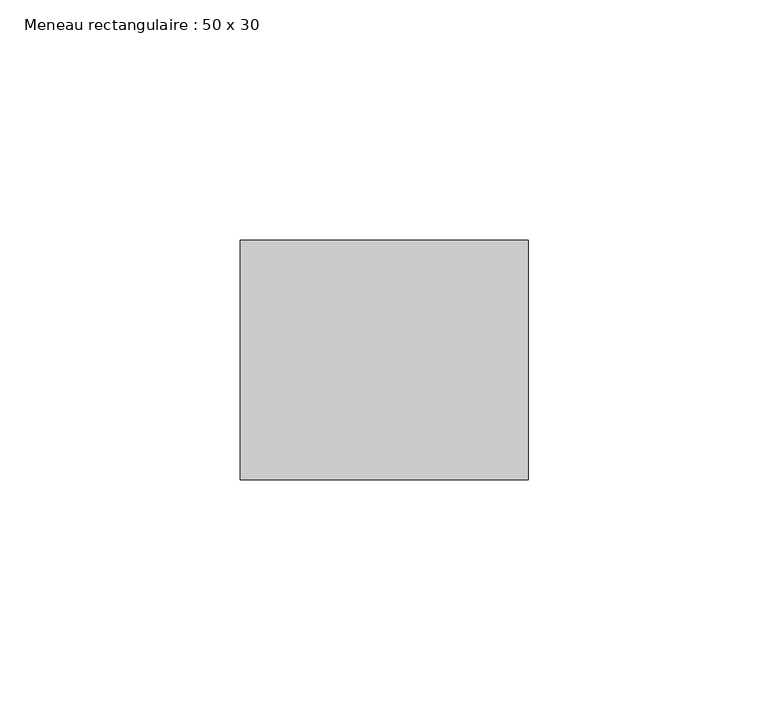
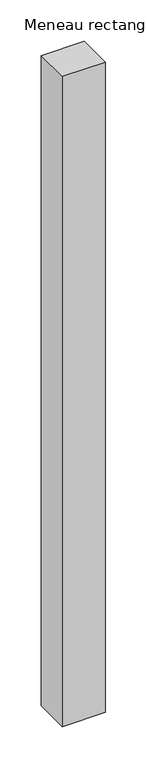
"""IFC4 building model written with IfcOpenShell, lengths in millimetres: member geometry, Meneau rectangulaire : 50 x 30."""

from ifc_helpers import new_model, si_unit, frame, origin, place, context, project, spatial, polyline, outline, extrude, source, transform, mapped, element, save


def meneau_rectangulaire_50_x_30_22c1f134(model_context):
    return source(origin(), model_context, "Body", "SweptSolid", [
        extrude(outline(polyline([(30.0, 0.0), (30.0, -50.0), (-30.0, -50.0), (-30.0, 0.0), (30.0, 0.0)])), frame((0.0, 0.0, -958.0), z_axis=(0.0, 0.0, 1.0), x_axis=(1.0, 0.0, 0.0)), (0.0, 0.0, 1.0), 958.0),
    ])


if __name__ == "__main__":
    model = new_model("IFC4")
    model_context = context("Model", 3, world=origin())
    ifc_project = project(units=[si_unit("LENGTHUNIT", "METRE", prefix="MILLI")], contexts=[model_context])
    site = spatial("IfcSite", under=ifc_project)
    building = spatial("IfcBuilding", under=site)
    placement = place(None, origin())
    meneau_rectangulaire_50_x_30_shape = meneau_rectangulaire_50_x_30_22c1f134(model_context)
    element("IfcMember", 1, ObjectType="Meneau rectangulaire : 50 x 30", at=placement, inside=building, context=model_context, shape_type="MappedRepresentation", body=[
        mapped(meneau_rectangulaire_50_x_30_shape, transform((0.0, 0.0, 0.0), x_axis=(1.0, 0.0, 0.0), y_axis=(0.0, 1.0, 0.0), z_axis=(0.0, 0.0, 1.0))),
    ])
    save(model, "model.ifc")
